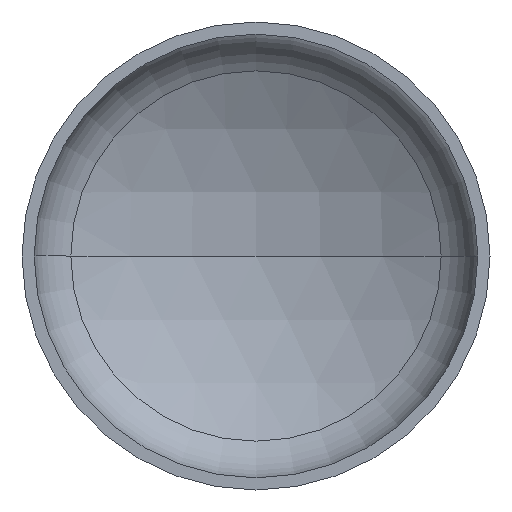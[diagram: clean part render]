
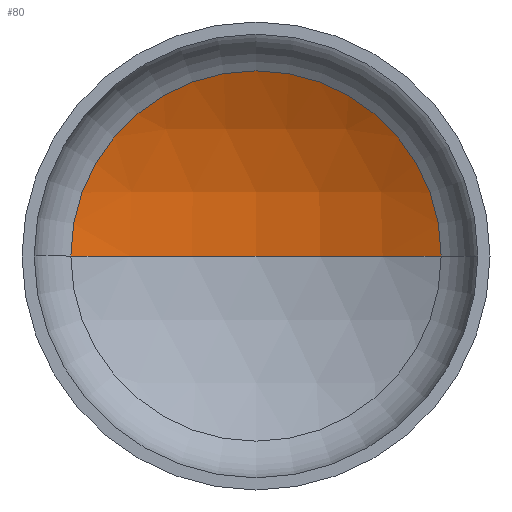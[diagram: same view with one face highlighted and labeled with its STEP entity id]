
A CAD part, front view. The second image highlights one B-rep face of the part: STEP entity #80.
In plain terms, the highlighted spherical face has radius 800 mm.
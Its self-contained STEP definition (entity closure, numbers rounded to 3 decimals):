
#20 = AXIS2_PLACEMENT_3D ( 'NONE', #376, #230, #396 ) ;
#24 = AXIS2_PLACEMENT_3D ( 'NONE', #189, #350, #214 ) ;
#37 = ORIENTED_EDGE ( 'NONE', *, *, #337, .T. ) ;
#43 = ORIENTED_EDGE ( 'NONE', *, *, #387, .F. ) ;
#47 = VERTEX_POINT ( 'NONE', #170 ) ;
#78 = VERTEX_POINT ( 'NONE', #339 ) ;
#80 = ADVANCED_FACE ( 'NONE', ( #242 ), #375, .F. ) ;
#87 = AXIS2_PLACEMENT_3D ( 'NONE', #368, #159, #312 ) ;
#109 = EDGE_LOOP ( 'NONE', ( #43, #37, #249 ) ) ;
#110 = VERTEX_POINT ( 'NONE', #283 ) ;
#159 = DIRECTION ( 'NONE',  ( 0., 0., -1. ) ) ;
#170 = CARTESIAN_POINT ( 'NONE',  ( 395.659, 219.716, 0. ) ) ;
#189 = CARTESIAN_POINT ( 'NONE',  ( 0., 219.716, 0. ) ) ;
#214 = DIRECTION ( 'NONE',  ( 1., 0., 0. ) ) ;
#230 = DIRECTION ( 'NONE',  ( 0., 0., -1. ) ) ;
#231 = DIRECTION ( 'NONE',  ( 0., 0., 1. ) ) ;
#242 = FACE_OUTER_BOUND ( 'NONE', #109, .T. ) ;
#244 = CIRCLE ( 'NONE', #299, 800. ) ;
#249 = ORIENTED_EDGE ( 'NONE', *, *, #334, .T. ) ;
#283 = CARTESIAN_POINT ( 'NONE',  ( 0., 324.407, 0. ) ) ;
#288 = DIRECTION ( 'NONE',  ( 1., 0., 0. ) ) ;
#299 = AXIS2_PLACEMENT_3D ( 'NONE', #379, #231, #288 ) ;
#312 = DIRECTION ( 'NONE',  ( -1., 0., 0. ) ) ;
#320 = CIRCLE ( 'NONE', #20, 800. ) ;
#334 = EDGE_CURVE ( 'NONE', #47, #78, #397, .T. ) ;
#337 = EDGE_CURVE ( 'NONE', #110, #47, #320, .T. ) ;
#339 = CARTESIAN_POINT ( 'NONE',  ( -395.659, 219.716, 0. ) ) ;
#350 = DIRECTION ( 'NONE',  ( 0., -1., 0. ) ) ;
#368 = CARTESIAN_POINT ( 'NONE',  ( 0., -475.593, 0. ) ) ;
#375 = SPHERICAL_SURFACE ( 'NONE', #87, 800. ) ;
#376 = CARTESIAN_POINT ( 'NONE',  ( 0., -475.593, 0. ) ) ;
#379 = CARTESIAN_POINT ( 'NONE',  ( 0., -475.593, 0. ) ) ;
#387 = EDGE_CURVE ( 'NONE', #110, #78, #244, .T. ) ;
#396 = DIRECTION ( 'NONE',  ( -1., 0., 0. ) ) ;
#397 = CIRCLE ( 'NONE', #24, 395.659 ) ;
